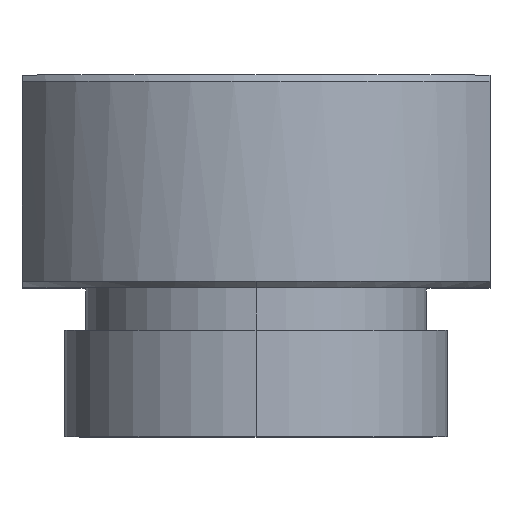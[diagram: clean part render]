
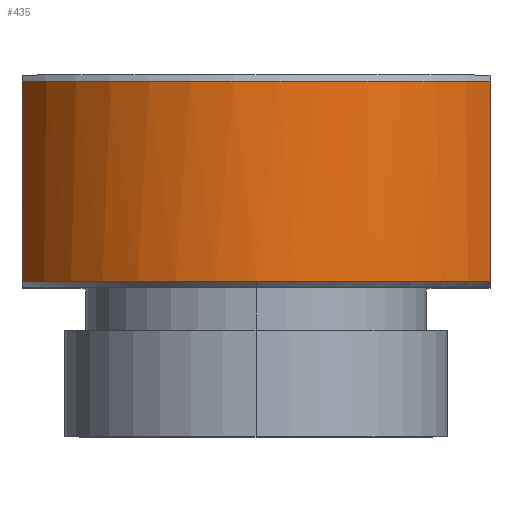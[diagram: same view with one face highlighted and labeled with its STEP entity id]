
A CAD part, top view. The second image highlights one B-rep face of the part: STEP entity #435.
In plain terms, the highlighted cylindrical face has radius 12.5 mm (diameter 25 mm), a partial arc.
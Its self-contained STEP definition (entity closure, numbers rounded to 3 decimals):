
#13 = DIRECTION ( 'NONE',  ( 0., 0., 1. ) ) ;
#19 = ORIENTED_EDGE ( 'NONE', *, *, #205, .T. ) ;
#48 = EDGE_CURVE ( 'NONE', #967, #788, #565, .T. ) ;
#57 = DIRECTION ( 'NONE',  ( 0., 0., 1. ) ) ;
#77 = DIRECTION ( 'NONE',  ( 0., -1., 0. ) ) ;
#81 = ORIENTED_EDGE ( 'NONE', *, *, #780, .F. ) ;
#86 = AXIS2_PLACEMENT_3D ( 'NONE', #462, #465, #845 ) ;
#88 = VECTOR ( 'NONE', #206, 1000. ) ;
#99 = CYLINDRICAL_SURFACE ( 'NONE', #86, 12.5 ) ;
#137 = VERTEX_POINT ( 'NONE', #191 ) ;
#151 = VECTOR ( 'NONE', #499, 1000. ) ;
#191 = CARTESIAN_POINT ( 'NONE',  ( 11., 9.7, 5.937 ) ) ;
#203 = CARTESIAN_POINT ( 'NONE',  ( 0., 0.3, 0. ) ) ;
#205 = EDGE_CURVE ( 'NONE', #967, #249, #316, .T. ) ;
#206 = DIRECTION ( 'NONE',  ( 0., -1., 0. ) ) ;
#249 = VERTEX_POINT ( 'NONE', #436 ) ;
#254 = CIRCLE ( 'NONE', #799, 12.5 ) ;
#277 = CARTESIAN_POINT ( 'NONE',  ( 11., 10., 5.937 ) ) ;
#287 = CARTESIAN_POINT ( 'NONE',  ( 11., 0.3, 5.937 ) ) ;
#297 = ORIENTED_EDGE ( 'NONE', *, *, #48, .F. ) ;
#316 = CIRCLE ( 'NONE', #847, 12.5 ) ;
#329 = CIRCLE ( 'NONE', #833, 12.5 ) ;
#426 = EDGE_LOOP ( 'NONE', ( #297, #19, #577, #81, #427 ) ) ;
#427 = ORIENTED_EDGE ( 'NONE', *, *, #962, .T. ) ;
#435 = ADVANCED_FACE ( 'NONE', ( #846 ), #99, .T. ) ;
#436 = CARTESIAN_POINT ( 'NONE',  ( 0., 0.3, 12.5 ) ) ;
#447 = DIRECTION ( 'NONE',  ( 0., 1., 0. ) ) ;
#448 = DIRECTION ( 'NONE',  ( 0., 1., 0. ) ) ;
#452 = CARTESIAN_POINT ( 'NONE',  ( -11., 9.7, 5.937 ) ) ;
#462 = CARTESIAN_POINT ( 'NONE',  ( 0., 10., 0. ) ) ;
#465 = DIRECTION ( 'NONE',  ( 0., -1., 0. ) ) ;
#466 = CARTESIAN_POINT ( 'NONE',  ( 0., 9.7, 0. ) ) ;
#475 = LINE ( 'NONE', #277, #88 ) ;
#499 = DIRECTION ( 'NONE',  ( 0., 1., 0. ) ) ;
#565 = LINE ( 'NONE', #660, #151 ) ;
#577 = ORIENTED_EDGE ( 'NONE', *, *, #740, .T. ) ;
#660 = CARTESIAN_POINT ( 'NONE',  ( -11., 10., 5.937 ) ) ;
#696 = CARTESIAN_POINT ( 'NONE',  ( -11., 0.3, 5.937 ) ) ;
#740 = EDGE_CURVE ( 'NONE', #249, #803, #329, .T. ) ;
#741 = DIRECTION ( 'NONE',  ( 0., 0., 1. ) ) ;
#780 = EDGE_CURVE ( 'NONE', #137, #803, #475, .T. ) ;
#788 = VERTEX_POINT ( 'NONE', #452 ) ;
#799 = AXIS2_PLACEMENT_3D ( 'NONE', #466, #77, #13 ) ;
#803 = VERTEX_POINT ( 'NONE', #287 ) ;
#833 = AXIS2_PLACEMENT_3D ( 'NONE', #203, #448, #741 ) ;
#845 = DIRECTION ( 'NONE',  ( 0., 0., -1. ) ) ;
#846 = FACE_OUTER_BOUND ( 'NONE', #426, .T. ) ;
#847 = AXIS2_PLACEMENT_3D ( 'NONE', #886, #447, #57 ) ;
#886 = CARTESIAN_POINT ( 'NONE',  ( 0., 0.3, 0. ) ) ;
#962 = EDGE_CURVE ( 'NONE', #137, #788, #254, .T. ) ;
#967 = VERTEX_POINT ( 'NONE', #696 ) ;
